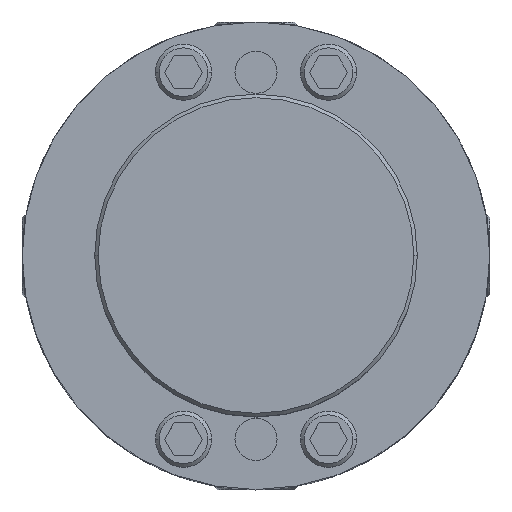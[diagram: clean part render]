
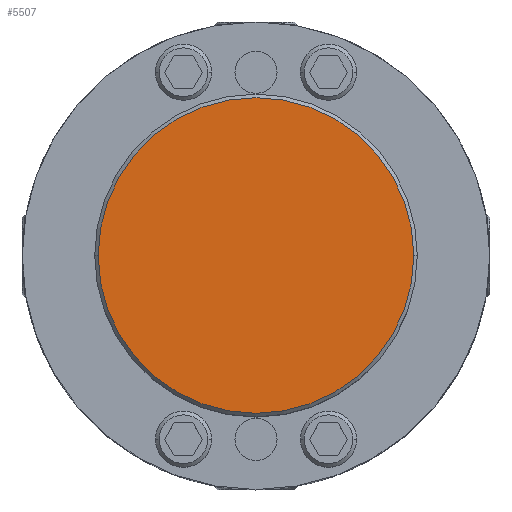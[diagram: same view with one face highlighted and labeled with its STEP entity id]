
A CAD part, top view. The second image highlights one B-rep face of the part: STEP entity #5507.
In plain terms, the highlighted planar face has unit normal (0, 0, 1).
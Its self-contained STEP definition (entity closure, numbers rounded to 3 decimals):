
#2249=CARTESIAN_POINT('',(67.5,0.,125.));
#2250=VERTEX_POINT('',#2249);
#2257=CARTESIAN_POINT('',(-67.5,0.,125.));
#2258=VERTEX_POINT('',#2257);
#2259=CARTESIAN_POINT('',(0.,0.,125.0));
#2260=DIRECTION('',(0.0,0.0,-1.0));
#2261=DIRECTION('',(1.0,0.0,0.0));
#2262=AXIS2_PLACEMENT_3D('',#2259,#2260,#2261);
#2263=CIRCLE('',#2262,67.5);
#2264=EDGE_CURVE('',#2250,#2258,#2263,.T.);
#5470=CARTESIAN_POINT('',(0.,0.,125.0));
#5471=DIRECTION('',(0.0,0.0,-1.0));
#5472=DIRECTION('',(1.0,0.0,0.0));
#5473=AXIS2_PLACEMENT_3D('',#5470,#5471,#5472);
#5474=CIRCLE('',#5473,67.5);
#5475=EDGE_CURVE('',#2258,#2250,#5474,.T.);
#5498=CARTESIAN_POINT('',(-6.273,0.,125.0));
#5499=DIRECTION('',(0.0,0.0,1.0));
#5500=DIRECTION('',(-1.0,0.0,0.0));
#5501=AXIS2_PLACEMENT_3D('',#5498,#5499,#5500);
#5502=PLANE('',#5501);
#5503=ORIENTED_EDGE('',*,*,#5475,.F.);
#5504=ORIENTED_EDGE('',*,*,#2264,.F.);
#5505=EDGE_LOOP('',(#5503,#5504));
#5506=FACE_OUTER_BOUND('',#5505,.T.);
#5507=ADVANCED_FACE('',(#5506),#5502,.T.);
